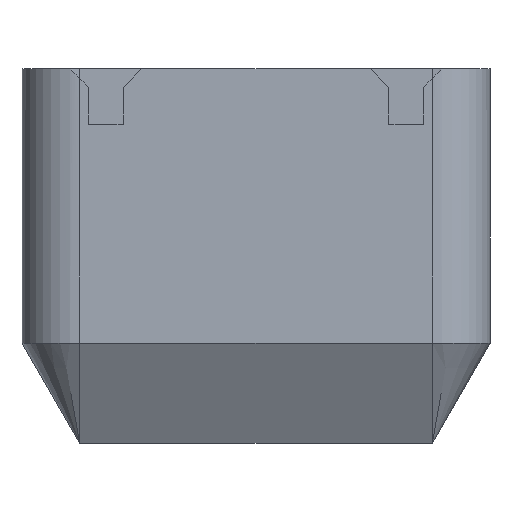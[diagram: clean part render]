
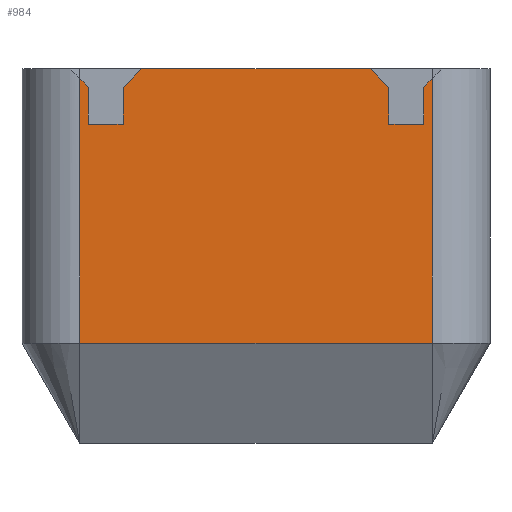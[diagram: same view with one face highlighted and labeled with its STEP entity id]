
A CAD part, front view. The second image highlights one B-rep face of the part: STEP entity #984.
In plain terms, the highlighted planar face has unit normal (0, -1, 0).
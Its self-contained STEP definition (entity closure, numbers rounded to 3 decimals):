
#110=FACE_OUTER_BOUND('',#174,.T.);
#174=EDGE_LOOP('',(#749,#750,#751,#752,#753,#754,#755,#756,#757,#758,#759,
#760,#761,#762));
#226=LINE('',#1489,#326);
#236=LINE('',#1520,#336);
#245=LINE('',#1543,#345);
#270=LINE('',#1616,#370);
#272=LINE('',#1620,#372);
#273=LINE('',#1622,#373);
#274=LINE('',#1623,#374);
#275=LINE('',#1625,#375);
#276=LINE('',#1627,#376);
#277=LINE('',#1629,#377);
#278=LINE('',#1631,#378);
#279=LINE('',#1633,#379);
#280=LINE('',#1635,#380);
#281=LINE('',#1636,#381);
#326=VECTOR('',#1169,10.);
#336=VECTOR('',#1205,10.);
#345=VECTOR('',#1228,10.);
#370=VECTOR('',#1283,10.);
#372=VECTOR('',#1287,10.);
#373=VECTOR('',#1288,10.);
#374=VECTOR('',#1289,10.);
#375=VECTOR('',#1290,10.);
#376=VECTOR('',#1291,10.);
#377=VECTOR('',#1292,10.);
#378=VECTOR('',#1293,10.);
#379=VECTOR('',#1294,10.);
#380=VECTOR('',#1295,10.);
#381=VECTOR('',#1296,10.);
#423=VERTEX_POINT('',#1483);
#425=VERTEX_POINT('',#1487);
#433=VERTEX_POINT('',#1518);
#440=VERTEX_POINT('',#1541);
#472=VERTEX_POINT('',#1613);
#473=VERTEX_POINT('',#1615);
#474=VERTEX_POINT('',#1619);
#475=VERTEX_POINT('',#1621);
#476=VERTEX_POINT('',#1624);
#477=VERTEX_POINT('',#1626);
#478=VERTEX_POINT('',#1628);
#479=VERTEX_POINT('',#1630);
#480=VERTEX_POINT('',#1632);
#481=VERTEX_POINT('',#1634);
#510=EDGE_CURVE('',#425,#423,#226,.T.);
#526=EDGE_CURVE('',#433,#425,#236,.T.);
#537=EDGE_CURVE('',#440,#433,#245,.T.);
#573=EDGE_CURVE('',#472,#473,#270,.T.);
#575=EDGE_CURVE('',#440,#474,#272,.T.);
#576=EDGE_CURVE('',#474,#475,#273,.T.);
#577=EDGE_CURVE('',#475,#473,#274,.T.);
#578=EDGE_CURVE('',#476,#472,#275,.T.);
#579=EDGE_CURVE('',#477,#476,#276,.T.);
#580=EDGE_CURVE('',#477,#478,#277,.T.);
#581=EDGE_CURVE('',#478,#479,#278,.T.);
#582=EDGE_CURVE('',#479,#480,#279,.T.);
#583=EDGE_CURVE('',#481,#480,#280,.T.);
#584=EDGE_CURVE('',#423,#481,#281,.T.);
#749=ORIENTED_EDGE('',*,*,#510,.F.);
#750=ORIENTED_EDGE('',*,*,#526,.F.);
#751=ORIENTED_EDGE('',*,*,#537,.F.);
#752=ORIENTED_EDGE('',*,*,#575,.T.);
#753=ORIENTED_EDGE('',*,*,#576,.T.);
#754=ORIENTED_EDGE('',*,*,#577,.T.);
#755=ORIENTED_EDGE('',*,*,#573,.F.);
#756=ORIENTED_EDGE('',*,*,#578,.F.);
#757=ORIENTED_EDGE('',*,*,#579,.F.);
#758=ORIENTED_EDGE('',*,*,#580,.T.);
#759=ORIENTED_EDGE('',*,*,#581,.T.);
#760=ORIENTED_EDGE('',*,*,#582,.T.);
#761=ORIENTED_EDGE('',*,*,#583,.F.);
#762=ORIENTED_EDGE('',*,*,#584,.F.);
#946=PLANE('',#1086);
#984=ADVANCED_FACE('',(#110),#946,.T.);
#1086=AXIS2_PLACEMENT_3D('',#1618,#1285,#1286);
#1169=DIRECTION('',(-1.,0.,0.));
#1205=DIRECTION('',(0.,0.,-1.));
#1228=DIRECTION('',(0.707,0.,0.707));
#1283=DIRECTION('',(0.707,0.,-0.707));
#1285=DIRECTION('center_axis',(0.,-1.,0.));
#1286=DIRECTION('ref_axis',(1.,0.,0.));
#1287=DIRECTION('',(0.,0.,-1.));
#1288=DIRECTION('',(-1.,0.,0.));
#1289=DIRECTION('',(0.,0.,1.));
#1290=DIRECTION('',(1.,0.,0.));
#1291=DIRECTION('',(0.707,0.,0.707));
#1292=DIRECTION('',(0.,0.,-1.));
#1293=DIRECTION('',(-1.,0.,0.));
#1294=DIRECTION('',(0.,0.,1.));
#1295=DIRECTION('',(0.707,0.,-0.707));
#1296=DIRECTION('',(0.,0.,1.));
#1483=CARTESIAN_POINT('',(-15.25,-27.5,8.66));
#1487=CARTESIAN_POINT('',(15.25,-27.5,8.66));
#1489=CARTESIAN_POINT('',(-10.125,-27.5,8.66));
#1518=CARTESIAN_POINT('',(15.25,-27.5,31.55));
#1520=CARTESIAN_POINT('',(15.25,-27.5,0.));
#1541=CARTESIAN_POINT('',(14.5,-27.5,30.8));
#1543=CARTESIAN_POINT('',(-1.488,-27.5,14.813));
#1613=CARTESIAN_POINT('',(9.9,-27.5,32.4));
#1615=CARTESIAN_POINT('',(11.5,-27.5,30.8));
#1616=CARTESIAN_POINT('',(10.863,-27.5,31.438));
#1618=CARTESIAN_POINT('Origin',(-20.25,-27.5,0.));
#1619=CARTESIAN_POINT('',(14.5,-27.5,27.6));
#1620=CARTESIAN_POINT('',(14.5,-27.5,13.8));
#1621=CARTESIAN_POINT('',(11.5,-27.5,27.6));
#1622=CARTESIAN_POINT('',(-4.375,-27.5,27.6));
#1623=CARTESIAN_POINT('',(11.5,-27.5,17.727));
#1624=CARTESIAN_POINT('',(-9.9,-27.5,32.4));
#1625=CARTESIAN_POINT('',(20.25,-27.5,32.4));
#1626=CARTESIAN_POINT('',(-11.5,-27.5,30.8));
#1627=CARTESIAN_POINT('',(-20.988,-27.5,21.313));
#1628=CARTESIAN_POINT('',(-11.5,-27.5,27.6));
#1629=CARTESIAN_POINT('',(-11.5,-27.5,17.727));
#1630=CARTESIAN_POINT('',(-14.5,-27.5,27.6));
#1631=CARTESIAN_POINT('',(-15.875,-27.5,27.6));
#1632=CARTESIAN_POINT('',(-14.5,-27.5,30.8));
#1633=CARTESIAN_POINT('',(-14.5,-27.5,13.8));
#1634=CARTESIAN_POINT('',(-15.25,-27.5,31.55));
#1635=CARTESIAN_POINT('',(-8.638,-27.5,24.938));
#1636=CARTESIAN_POINT('',(-15.25,-27.5,0.));
